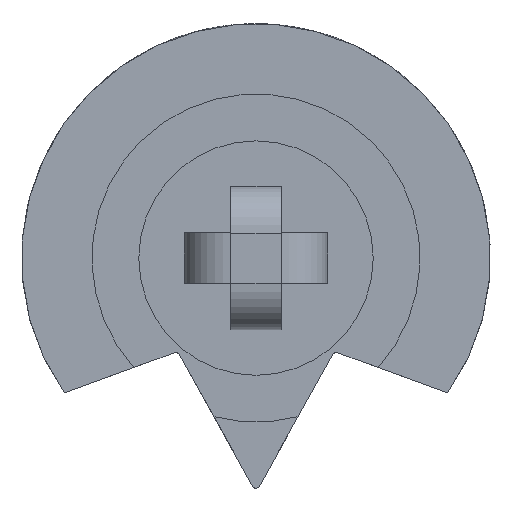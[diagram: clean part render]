
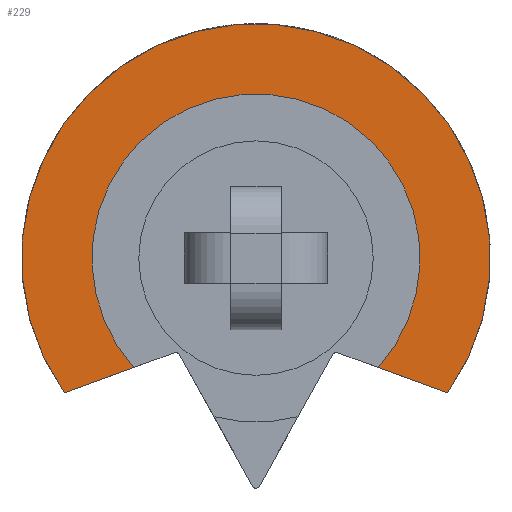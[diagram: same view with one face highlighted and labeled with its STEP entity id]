
A CAD part, front view. The second image highlights one B-rep face of the part: STEP entity #229.
In plain terms, the highlighted planar face has unit normal (0, -1, 0).
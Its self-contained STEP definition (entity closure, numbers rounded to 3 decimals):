
#229=ADVANCED_FACE('',(#632),#634,.T.);
#632=FACE_BOUND('',#633,.T.);
#633=EDGE_LOOP('',(#961,#962,#963,#964));
#634=PLANE('',#635);
#635=AXIS2_PLACEMENT_3D('',#636,#637,#638);
#636=CARTESIAN_POINT('',(0.,5.1,0.));
#637=DIRECTION('',(0.,-1.,0.));
#638=DIRECTION('',(1.,0.,0.));
#961=ORIENTED_EDGE('',*,*,#1174,.T.);
#962=ORIENTED_EDGE('',*,*,#1175,.F.);
#963=ORIENTED_EDGE('',*,*,#1176,.T.);
#964=ORIENTED_EDGE('',*,*,#1140,.T.);
#1140=EDGE_CURVE('',#1297,#1295,#1298,.T.);
#1174=EDGE_CURVE('',#1295,#1351,#1353,.F.);
#1175=EDGE_CURVE('',#1354,#1351,#1355,.T.);
#1176=EDGE_CURVE('',#1354,#1297,#1356,.F.);
#1295=VERTEX_POINT('',#1595);
#1297=VERTEX_POINT('',#1599);
#1298=CIRCLE('',#1600,3.);
#1351=VERTEX_POINT('',#1734);
#1353=LINE('',#1738,#1739);
#1354=VERTEX_POINT('',#1741);
#1355=CIRCLE('',#1742,2.1);
#1356=LINE('',#1746,#1747);
#1595=CARTESIAN_POINT('',(-2.454,5.1,-1.725));
#1599=CARTESIAN_POINT('',(2.454,5.1,-1.725));
#1600=AXIS2_PLACEMENT_3D('',#1601,#1602,#1603);
#1601=CARTESIAN_POINT('',(0.,5.1,0.));
#1602=DIRECTION('',(0.,-1.,0.));
#1603=DIRECTION('',(0.818,0.,-0.575));
#1734=CARTESIAN_POINT('',(-1.564,5.1,-1.401));
#1738=CARTESIAN_POINT('',(-1.564,5.1,-1.401));
#1739=VECTOR('',#1740,1.);
#1740=DIRECTION('',(-0.94,0.,-0.342));
#1741=CARTESIAN_POINT('',(1.564,5.1,-1.401));
#1742=AXIS2_PLACEMENT_3D('',#1743,#1744,#1745);
#1743=CARTESIAN_POINT('',(0.,5.1,0.));
#1744=DIRECTION('',(0.,-1.,0.));
#1745=DIRECTION('',(0.745,0.,-0.667));
#1746=CARTESIAN_POINT('',(2.454,5.1,-1.725));
#1747=VECTOR('',#1748,1.);
#1748=DIRECTION('',(-0.94,0.,0.342));
